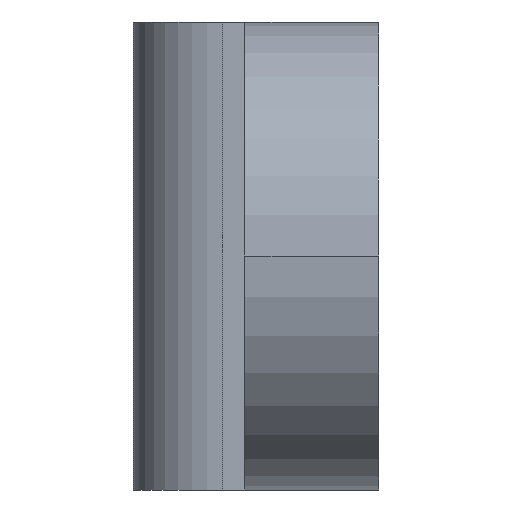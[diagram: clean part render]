
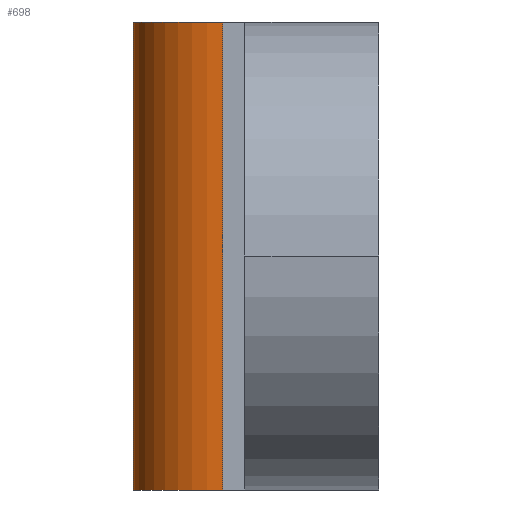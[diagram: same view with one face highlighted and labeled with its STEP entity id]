
A CAD part, left-side view. The second image highlights one B-rep face of the part: STEP entity #698.
In plain terms, the highlighted cylindrical face has radius 2.032 mm (diameter 4.064 mm), a partial arc.
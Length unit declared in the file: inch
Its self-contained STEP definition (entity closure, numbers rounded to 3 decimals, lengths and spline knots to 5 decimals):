
#15 = VERTEX_POINT ( 'NONE', #950 ) ;
#43 = DIRECTION ( 'NONE',  ( 0., 0., 1. ) ) ;
#77 = CARTESIAN_POINT ( 'NONE',  ( -0.47, 0.22, 0.21 ) ) ;
#82 = EDGE_CURVE ( 'NONE', #15, #229, #796, .T. ) ;
#90 = AXIS2_PLACEMENT_3D ( 'NONE', #643, #812, #727 ) ;
#216 = DIRECTION ( 'NONE',  ( -1., 0., 0. ) ) ;
#229 = VERTEX_POINT ( 'NONE', #1045 ) ;
#265 = LINE ( 'NONE', #77, #1115 ) ;
#306 = AXIS2_PLACEMENT_3D ( 'NONE', #426, #43, #723 ) ;
#309 = VERTEX_POINT ( 'NONE', #801 ) ;
#333 = CIRCLE ( 'NONE', #90, 0.08 ) ;
#340 = FACE_OUTER_BOUND ( 'NONE', #419, .T. ) ;
#389 = ORIENTED_EDGE ( 'NONE', *, *, #725, .F. ) ;
#397 = ORIENTED_EDGE ( 'NONE', *, *, #82, .F. ) ;
#408 = VERTEX_POINT ( 'NONE', #916 ) ;
#419 = EDGE_LOOP ( 'NONE', ( #397, #389, #785, #1096 ) ) ;
#426 = CARTESIAN_POINT ( 'NONE',  ( -0.47, 0.14, 0.21 ) ) ;
#430 = EDGE_CURVE ( 'NONE', #309, #408, #333, .T. ) ;
#435 = AXIS2_PLACEMENT_3D ( 'NONE', #1089, #1183, #216 ) ;
#537 = CYLINDRICAL_SURFACE ( 'NONE', #435, 0.08 ) ;
#540 = EDGE_CURVE ( 'NONE', #229, #309, #820, .T. ) ;
#643 = CARTESIAN_POINT ( 'NONE',  ( -0.47, 0.14, -0.21 ) ) ;
#698 = ADVANCED_FACE ( 'NONE', ( #340 ), #537, .T. ) ;
#723 = DIRECTION ( 'NONE',  ( 1., 0., 0. ) ) ;
#725 = EDGE_CURVE ( 'NONE', #408, #15, #265, .T. ) ;
#727 = DIRECTION ( 'NONE',  ( 1., 0., 0. ) ) ;
#785 = ORIENTED_EDGE ( 'NONE', *, *, #430, .F. ) ;
#796 = CIRCLE ( 'NONE', #306, 0.08 ) ;
#801 = CARTESIAN_POINT ( 'NONE',  ( -0.55, 0.14, -0.21 ) ) ;
#812 = DIRECTION ( 'NONE',  ( 0., 0., -1. ) ) ;
#820 = LINE ( 'NONE', #825, #1042 ) ;
#825 = CARTESIAN_POINT ( 'NONE',  ( -0.55, 0.14, 0.21 ) ) ;
#901 = DIRECTION ( 'NONE',  ( 0., 0., 1. ) ) ;
#916 = CARTESIAN_POINT ( 'NONE',  ( -0.47, 0.22, -0.21 ) ) ;
#950 = CARTESIAN_POINT ( 'NONE',  ( -0.47, 0.22, 0.21 ) ) ;
#1042 = VECTOR ( 'NONE', #1105, 39.37008 ) ;
#1045 = CARTESIAN_POINT ( 'NONE',  ( -0.55, 0.14, 0.21 ) ) ;
#1089 = CARTESIAN_POINT ( 'NONE',  ( -0.47, 0.14, 0.21 ) ) ;
#1096 = ORIENTED_EDGE ( 'NONE', *, *, #540, .F. ) ;
#1105 = DIRECTION ( 'NONE',  ( 0., 0., -1. ) ) ;
#1115 = VECTOR ( 'NONE', #901, 39.37008 ) ;
#1183 = DIRECTION ( 'NONE',  ( 0., 0., -1. ) ) ;
